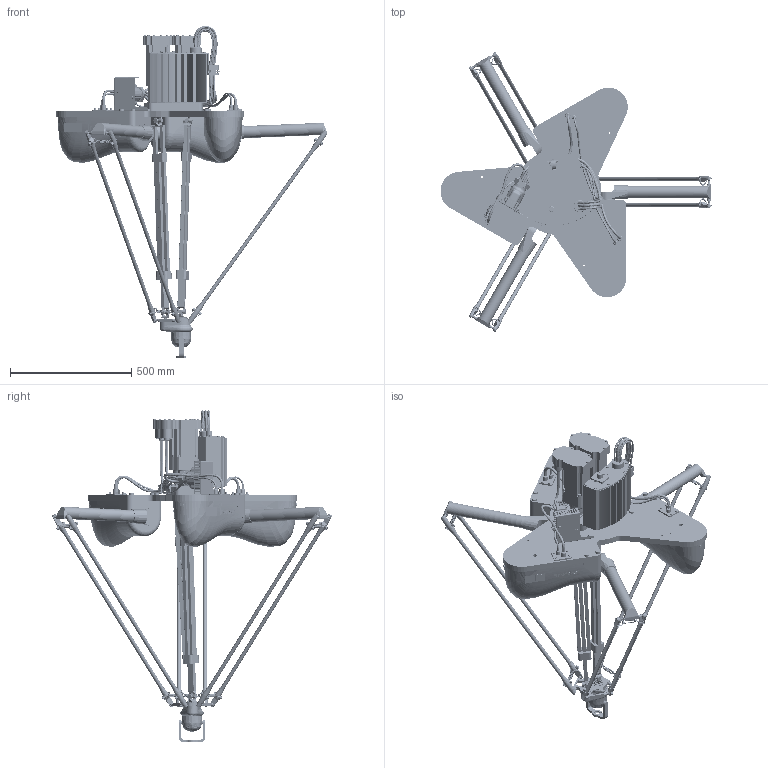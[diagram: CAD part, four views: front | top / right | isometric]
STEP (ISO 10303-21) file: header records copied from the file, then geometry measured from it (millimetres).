
FILE_DESCRIPTION (( 'STEP AP214' ), '1' );
FILE_NAME ('IRB365_1.5-1300_OmniCore_rev00_ASM_CAD.STEP', '2025-09-09T11:46:59', ( '' ), ( '' ), 'SwSTEP 2.0', 'SolidWorks 2024', '' );
FILE_SCHEMA (( 'AUTOMOTIVE_DESIGN' ));
Length unit declared in the file: millimetre
Products named in the file (34): IRB365_1.5-1300_OmniCore_rev00_CROSS_JOINT_1_CAD; IRB365_1.5-1300_OmniCore_rev00_LABELS_CAD; IRB365_1.5-1300_OmniCore_rev00_DELTA_UNIT_1_CAD; IRB365_1.5-1300_OmniCore_rev00_CROSS_JOINT_2_CAD; IRB365_1.5-1300_OmniCore_rev00_SPRING_UNIT_2_CAD; IRB365_1.5-1300_OmniCore_rev00_UPPER_ARM_1_CAD; IRB365_1.5_1300_OmniCore_rev00_SWING_CAD; IRB365_1.5-1300_OmniCore_rev00_LINK_6_CAD; IRB365_1.5-1300_OmniCore_rev00_LINK_2_CAD; IRB365_1.5-1300_OmniCore_rev00_SPRING_UNIT_6_CAD; IRB365_1.5-1300_OmniCore_rev00_CROSS_JOINT_3_CAD; IRB365_1.5-1300_OmniCore_rev00_UPPER_ARM_2_CAD; IRB365_1.5-1300_OmniCore_rev00_SPRING_UNIT_4_CAD; IRB365_1.5-1300_OmniCore_rev00_UNIVERSAL_JOINT_1_CAD; IRB365_1.5-1300_OmniCore_rev00_SPRING_UNIT_3_CAD; IRB365_1.5-1300_OmniCore_rev00_DELTA_UNIT_2_CAD; IRB365_1.5-1300_OmniCore_rev00_TELESCOPIC_UNIT_2_2_CAD; IRB365_1.5-1300_OmniCore_rev00_UNIVERSAL_JOINT_2_CAD; IRB365_1.5-1300_OmniCore_rev00_BASE_CAD; IRB365_1.5-1300_OmniCore_rev00_ASM_CAD; IRB365_1.5-1300_OmniCore_rev00_SPRING_UNIT_1_CAD; IRB365_1.5-1300_OmniCore_rev00_UNIVERSAL_JOINT_4_CAD; IRB365_1.5-1300_OmniCore_rev00_TELESCOPIC_UNIT_1_1_CAD; IRB365_1.5-1300_OmniCore_rev00_LINK_4_CAD; IRB365_1.5-1300_OmniCore_rev00_TELESCOPIC_UNIT_2_1_CAD; IRB365_1.5-1300_OmniCore_rev00_UPPER_ARM_3_CAD; IRB365_1.5-1300_OmniCore_rev00_UNIVERSAL_JOINT_3_CAD; IRB365_1.5-1300_OmniCore_rev00_CROSS_JOINT_4_CAD; IRB365_1.5-1300_OmniCore_rev00_LINK_1_CAD; IRB365_1.5-1300_OmniCore_rev00_TELESCOPIC_UNIT_1_2_CAD; IRB365_1.5-1300_OmniCore_rev00_SPRING_UNIT_5_CAD; IRB365_1.5-1300_OmniCore_rev00_LINK_5_CAD; IRB365_1.5-1300_OmniCore_rev00_HARNESS_CAD; IRB365_1.5-1300_OmniCore_rev00_LINK_3_CAD
Assembly tree (33 placements, depth 2):
  IRB365_1.5-1300_OmniCore_rev00_ASM_CAD
    IRB365_1.5-1300_OmniCore_rev00_LABELS_CAD
    IRB365_1.5-1300_OmniCore_rev00_BASE_CAD
    IRB365_1.5-1300_OmniCore_rev00_HARNESS_CAD
    IRB365_1.5-1300_OmniCore_rev00_LINK_6_CAD
    IRB365_1.5-1300_OmniCore_rev00_UPPER_ARM_3_CAD
    IRB365_1.5-1300_OmniCore_rev00_UPPER_ARM_2_CAD
    IRB365_1.5-1300_OmniCore_rev00_UPPER_ARM_1_CAD
    IRB365_1.5-1300_OmniCore_rev00_UNIVERSAL_JOINT_4_CAD
    IRB365_1.5-1300_OmniCore_rev00_UNIVERSAL_JOINT_3_CAD
    IRB365_1.5-1300_OmniCore_rev00_LINK_5_CAD
    IRB365_1.5-1300_OmniCore_rev00_LINK_3_CAD
    IRB365_1.5-1300_OmniCore_rev00_LINK_1_CAD
    IRB365_1.5-1300_OmniCore_rev00_LINK_2_CAD
    IRB365_1.5-1300_OmniCore_rev00_DELTA_UNIT_1_CAD
    IRB365_1.5-1300_OmniCore_rev00_DELTA_UNIT_2_CAD
    IRB365_1.5_1300_OmniCore_rev00_SWING_CAD
    IRB365_1.5-1300_OmniCore_rev00_LINK_4_CAD
    IRB365_1.5-1300_OmniCore_rev00_SPRING_UNIT_6_CAD
    IRB365_1.5-1300_OmniCore_rev00_SPRING_UNIT_5_CAD
    IRB365_1.5-1300_OmniCore_rev00_SPRING_UNIT_4_CAD
    IRB365_1.5-1300_OmniCore_rev00_SPRING_UNIT_3_CAD
    IRB365_1.5-1300_OmniCore_rev00_SPRING_UNIT_2_CAD
    IRB365_1.5-1300_OmniCore_rev00_SPRING_UNIT_1_CAD
    IRB365_1.5-1300_OmniCore_rev00_TELESCOPIC_UNIT_2_2_CAD
    IRB365_1.5-1300_OmniCore_rev00_UNIVERSAL_JOINT_2_CAD
    IRB365_1.5-1300_OmniCore_rev00_CROSS_JOINT_3_CAD
    IRB365_1.5-1300_OmniCore_rev00_TELESCOPIC_UNIT_2_1_CAD
    IRB365_1.5-1300_OmniCore_rev00_CROSS_JOINT_1_CAD
    IRB365_1.5-1300_OmniCore_rev00_CROSS_JOINT_2_CAD
    IRB365_1.5-1300_OmniCore_rev00_CROSS_JOINT_4_CAD
    IRB365_1.5-1300_OmniCore_rev00_TELESCOPIC_UNIT_1_1_CAD
    IRB365_1.5-1300_OmniCore_rev00_TELESCOPIC_UNIT_1_2_CAD
    IRB365_1.5-1300_OmniCore_rev00_UNIVERSAL_JOINT_1_CAD
Bounding box: 1116.11 x 1152.06 x 1367.26 mm (x, y, z)
Volume: 49093848.6 mm3; surface area: 3314682.1 mm2
Topology: 82 solids, 82 shells, 5985 faces, 15138 edges, 9586 vertices
Faces by surface type: plane 2449, cylinder 1998, bspline 649, torus 591, cone 202, sphere 96
Entity records: 340105 total; most frequent: CARTESIAN_POINT 197828, ORIENTED_EDGE 30004, DIRECTION 28581, EDGE_CURVE 15002, AXIS2_PLACEMENT_3D 10767, VERTEX_POINT 9550, VECTOR 7047, LINE 7047
